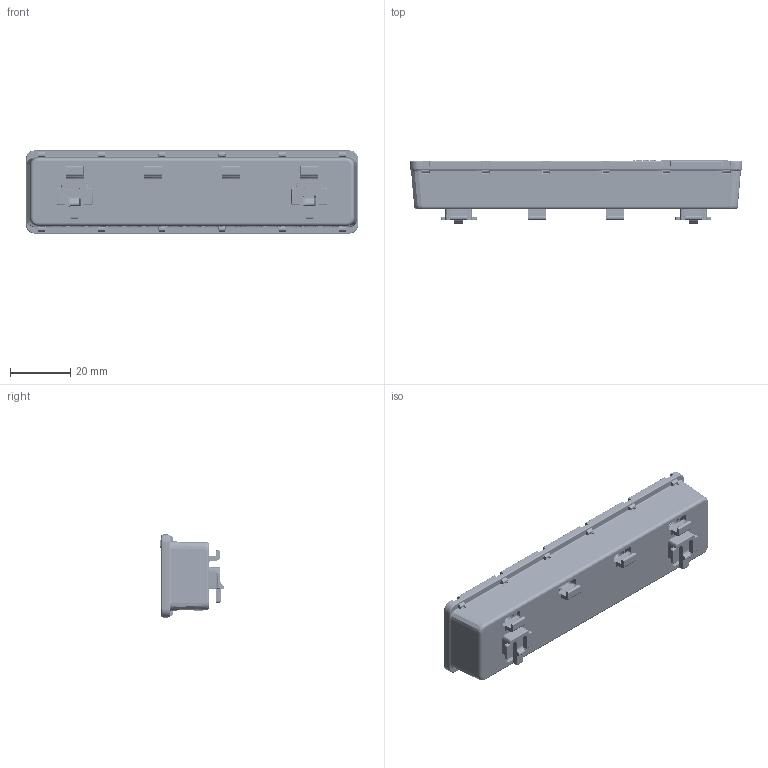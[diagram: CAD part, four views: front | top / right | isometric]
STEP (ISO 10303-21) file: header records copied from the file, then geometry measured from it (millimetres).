
FILE_DESCRIPTION (( 'STEP AP214' ), '1' );
FILE_NAME ('岭铌 觌屐祉 忤眚钼铋 OptiBox Pro N, PE -1,5-16-16.STEP', '2024-11-07T10:25:44', ( '' ), ( '' ), 'SwSTEP 2.0', 'SolidWorks 2018', '' );
FILE_SCHEMA (( 'AUTOMOTIVE_DESIGN' ));
Length unit declared in the file: millimetre
Products named in the file (7): M5x8___; G30-00-P000___; 岭铌 觌屐祉 忤眚钼铋 OptiBox Pro N, PE -1,5-16-16; G05-02-P000 V1.9___; G05-03-P000 V1.9___; M4x8___; G05-01-P000 V1.9___
Assembly tree (20 placements, depth 3):
  岭铌 觌屐祉 忤眚钼铋 OptiBox Pro N, PE -1,5-16-16
    G05-02-P000 V1.9___
    G05-01-P000 V1.9___
    G30-00-P000___
      G05-03-P000 V1.9___
      M4x8___  x9
      M5x8___  x7
Bounding box: 110.3 x 21.25 x 27.6 mm (x, y, z)
Volume: 20498.5 mm3; surface area: 30320.2 mm2
Topology: 19 solids, 19 shells, 4682 faces, 12929 edges, 8351 vertices
Faces by surface type: plane 2079, cylinder 1188, bspline 922, torus 242, sphere 128, cone 123
Entity records: 117205 total; most frequent: CARTESIAN_POINT 55517, ORIENTED_EDGE 14046, DIRECTION 10596, EDGE_CURVE 7023, LINE 4862, VECTOR 4862, VERTEX_POINT 4577, AXIS2_PLACEMENT_3D 2867
